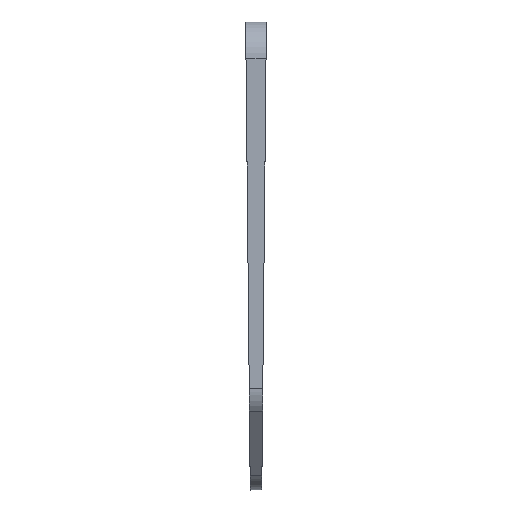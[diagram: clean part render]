
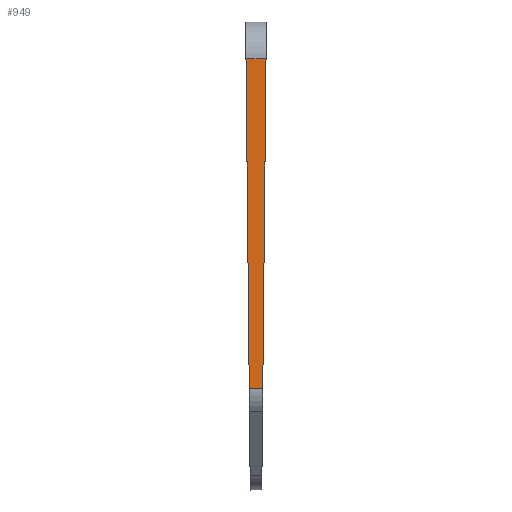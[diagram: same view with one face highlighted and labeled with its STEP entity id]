
A CAD part, top view. The second image highlights one B-rep face of the part: STEP entity #949.
In plain terms, the highlighted planar face has unit normal (0, 0, 1).
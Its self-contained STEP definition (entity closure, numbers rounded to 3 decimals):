
#860=CARTESIAN_POINT('Vertex',(-1.467,-28.728,25.5)) ;
#869=CARTESIAN_POINT('Vertex',(1.467,-28.728,25.5)) ;
#872=CARTESIAN_POINT('Line Origine',(0.,-28.728,25.5)) ;
#919=CARTESIAN_POINT('Axis2P3D Location',(0.,42.75,25.5)) ;
#924=CARTESIAN_POINT('Line Origine',(-1.819,7.011,25.5)) ;
#928=CARTESIAN_POINT('Vertex',(-2.171,42.75,25.5)) ;
#931=CARTESIAN_POINT('Line Origine',(1.819,7.011,25.5)) ;
#935=CARTESIAN_POINT('Vertex',(2.171,42.75,25.5)) ;
#938=CARTESIAN_POINT('Line Origine',(0.,42.75,25.5)) ;
#873=DIRECTION('Vector Direction',(1.,0.,0.)) ;
#920=DIRECTION('Axis2P3D Direction',(-0.,0.,1.)) ;
#921=DIRECTION('Axis2P3D XDirection',(0.,-1.,0.)) ;
#925=DIRECTION('Vector Direction',(0.01,-1.,0.)) ;
#932=DIRECTION('Vector Direction',(-0.01,-1.,0.)) ;
#939=DIRECTION('Vector Direction',(1.,0.,0.)) ;
#922=AXIS2_PLACEMENT_3D('Plane Axis2P3D',#919,#920,#921) ;
#944=ORIENTED_EDGE('',*,*,#930,.T.) ;
#945=ORIENTED_EDGE('',*,*,#876,.T.) ;
#946=ORIENTED_EDGE('',*,*,#937,.F.) ;
#947=ORIENTED_EDGE('',*,*,#942,.F.) ;
#874=VECTOR('Line Direction',#873,1.) ;
#926=VECTOR('Line Direction',#925,1.) ;
#933=VECTOR('Line Direction',#932,1.) ;
#940=VECTOR('Line Direction',#939,1.) ;
#949=ADVANCED_FACE('PartBody',(#948),#923,.T.) ;
#876=EDGE_CURVE('',#861,#870,#875,.T.) ;
#930=EDGE_CURVE('',#929,#861,#927,.T.) ;
#937=EDGE_CURVE('',#936,#870,#934,.T.) ;
#942=EDGE_CURVE('',#929,#936,#941,.T.) ;
#943=EDGE_LOOP('',(#944,#945,#946,#947)) ;
#948=FACE_OUTER_BOUND('',#943,.T.) ;
#875=LINE('Line',#872,#874) ;
#927=LINE('Line',#924,#926) ;
#934=LINE('Line',#931,#933) ;
#941=LINE('Line',#938,#940) ;
#923=PLANE('',#922) ;
#861=VERTEX_POINT('',#860) ;
#870=VERTEX_POINT('',#869) ;
#929=VERTEX_POINT('',#928) ;
#936=VERTEX_POINT('',#935) ;
